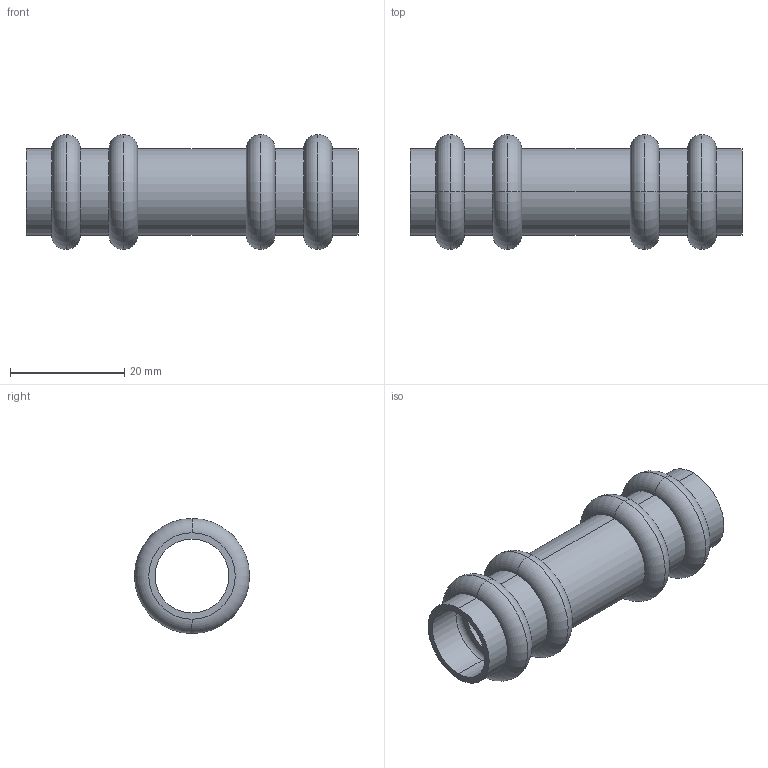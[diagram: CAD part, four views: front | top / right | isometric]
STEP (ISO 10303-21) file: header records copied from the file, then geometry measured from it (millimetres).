
FILE_DESCRIPTION(('starvars output'),'1');
FILE_NAME('cv20240422105148000011553.stp','10:51:51 2024/04/22',('Thomas Industrial Network Germany GmbH'),(' '),'Spatial InterOp 3D',' ',' ');
FILE_SCHEMA(('AUTOMOTIVE_DESIGN { 1 0 10303 214 3 1 1 }'));
Length unit declared in the file: millimetre
Products named in the file (1): 1
Bounding box: 58 x 20.1 x 20.1 mm (x, y, z)
Volume: 4008 mm3; surface area: 6840.1 mm2
Topology: 1 solids, 1 shells, 62 faces, 124 edges, 72 vertices
Faces by surface type: torus 32, cylinder 20, plane 10
Entity records: 2160 total; most frequent: DIRECTION 354, CARTESIAN_POINT 259, ORIENTED_EDGE 248, AXIS2_PLACEMENT_3D 167, EDGE_CURVE 124, CIRCLE 104, EDGE_LOOP 72, VERTEX_POINT 72
